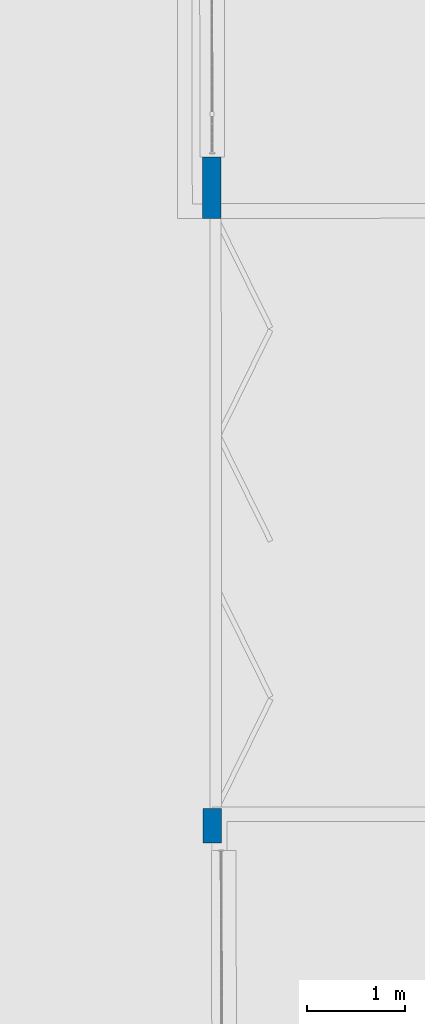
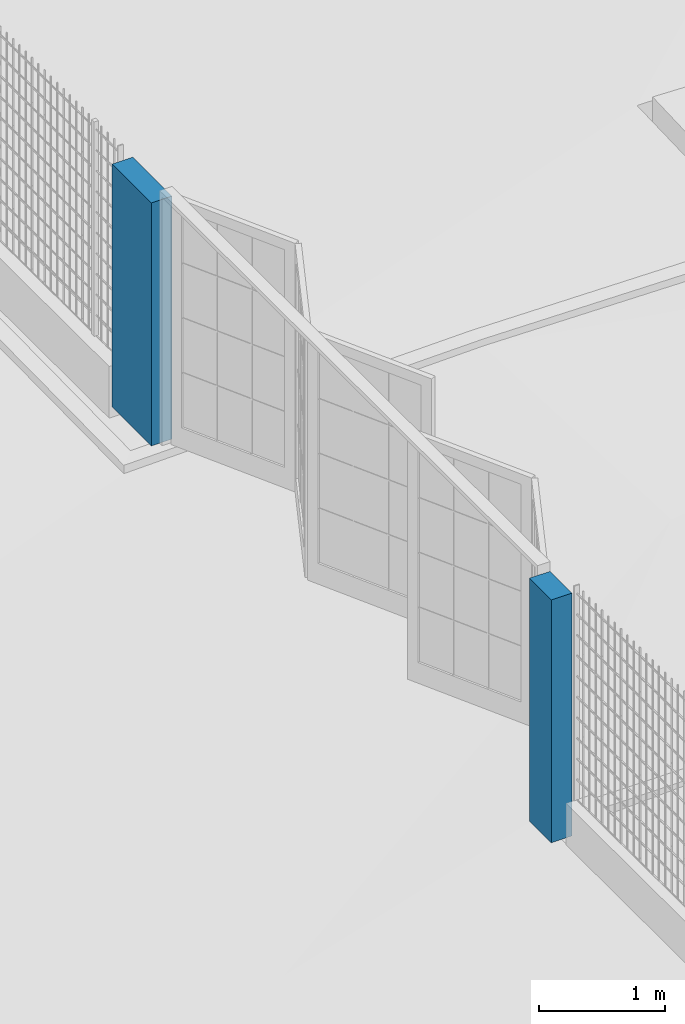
# One storey, part 3 of 1809: 1 wall, 1 opening.
"""IFC2X3 building model written with IfcOpenShell, lengths in millimetres."""

from ifc_helpers import new_model, entity, si_unit, converted_unit, derived_unit, money_unit, direction, frame, origin_with_axes, origin_2d_with_axis, place, context, subcontext, project, spatial, polyline, rectangle, outline, extrude, material, layer, layer_set, layer_usage, type_object, element, save


model = new_model("IFC2X3")

# Units and contexts
model_context = context("Model", 3, precision=0.01, world=origin_with_axes(), true_north=direction((0.0, 1.0)))
body_context = subcontext(model_context, "Body", "Model", "MODEL_VIEW")
ifc_project = project(units=[si_unit("LENGTHUNIT", "METRE", prefix="MILLI"), si_unit("AREAUNIT", "SQUARE_METRE"), si_unit("VOLUMEUNIT", "CUBIC_METRE"), converted_unit("PLANEANGLEUNIT", "DEGREE", entity("IfcPlaneAngleMeasure", 0.0174532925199), si_unit("PLANEANGLEUNIT", "RADIAN"), dimensions=[0, 0, 0, 0, 0, 0, 0]), si_unit("SOLIDANGLEUNIT", "STERADIAN"), money_unit("EUR"), converted_unit("TIMEUNIT", "Year", entity("IfcTimeMeasure", 31556926.0), si_unit("TIMEUNIT", "SECOND"), dimensions=[0, 0, 1, 0, 0, 0, 0]), si_unit("MASSUNIT", "GRAM", prefix="KILO"), si_unit("THERMODYNAMICTEMPERATUREUNIT", "DEGREE_CELSIUS"), si_unit("LUMINOUSINTENSITYUNIT", "LUMEN"), si_unit("ENERGYUNIT", "JOULE", prefix="MEGA"), derived_unit("THERMALCONDUCTANCEUNIT", [(si_unit("POWERUNIT", "WATT"), 1), (si_unit("LENGTHUNIT", "METRE"), -1), (si_unit("THERMODYNAMICTEMPERATUREUNIT", "KELVIN"), -1)]), derived_unit("SPECIFICHEATCAPACITYUNIT", [(si_unit("ENERGYUNIT", "JOULE"), 1), (si_unit("MASSUNIT", "GRAM", prefix="KILO"), -1), (si_unit("THERMODYNAMICTEMPERATUREUNIT", "KELVIN"), -1)]), derived_unit("MASSDENSITYUNIT", [(si_unit("MASSUNIT", "GRAM", prefix="KILO"), 1), (si_unit("VOLUMEUNIT", "CUBIC_METRE"), -1)])], contexts=[model_context])

# Site, building, storey
site_placement = place(None, origin_with_axes())
site = spatial("IfcSite", under=ifc_project, at=site_placement, Name="Politse- ja Piirivalveameti ning Päästeameti ühishoone", CompositionType="ELEMENT")
building_placement = place(site_placement, origin_with_axes())
building = spatial("IfcBuilding", under=site, at=building_placement, Name="Politse- ja Piirivalveameti ning Päästeameti ühishoone", CompositionType="ELEMENT")
storey_placement = place(building_placement, origin_with_axes())
storey = spatial("IfcBuildingStorey", under=building, at=storey_placement, Name="Esimene korrus", CompositionType="ELEMENT", Elevation=0.0)

# Wall, opening
ifc_material = material(Name="KON-05_Betoon Plokk - Konstuktsioon")
ifc_layer = layer(ifc_material, 190.0, ventilated="UNKNOWN")
ifc_layer_set = layer_set([ifc_layer], Name="SS-03_Sisesein 190")
ifc_layer_usage = layer_usage(ifc_layer_set, "AXIS2", "POSITIVE", -95.0)
wall_type = type_object("IfcWallType", Name="SS-03_Sisesein 190 190", PredefinedType="NOTDEFINED")
wall_placement = place(storey_placement, frame((59648.9211214, 48266.9211636, 0.0), z_axis=(0.0, 0.0, 1.0), x_axis=(0.000495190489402, -0.999999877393, 0.0)))
wall = element("IfcWallStandardCase", 1, at=wall_placement, inside=storey, type_object=wall_type, material=ifc_layer_usage, Name="Välissein", context=body_context, shape_type="SweptSolid", body=[
    extrude(outline(polyline([(0.0, -95.0), (6971.97880813, -95.0), (6971.97880813, 95.0), (0.0, 95.0), (0.0, -95.0)])), origin_with_axes(), (0.0, 0.0, 1.0), 2355.01639546),
])
opening_placement = place(wall_placement, frame((3623.83319179, 0.0, 0.0), z_axis=(0.0, 0.0, 1.0), x_axis=(1.0, 0.0, 0.0)))
element("IfcOpeningElement", 2, at=opening_placement, cuts=wall, Name="VOLDIKV2RAV", context=body_context, shape_type="SweptSolid", body=[
    extrude(rectangle(XDim=6000.0, YDim=2450.0, at=origin_2d_with_axis()), frame((0.0, -190.0, 1225.0), z_axis=(0.0, -1.0, 0.0), x_axis=(-1.0, 0.0, 0.0)), (0.0, 0.0, -1.0), 570.0),
])

save(model, "model.ifc")
